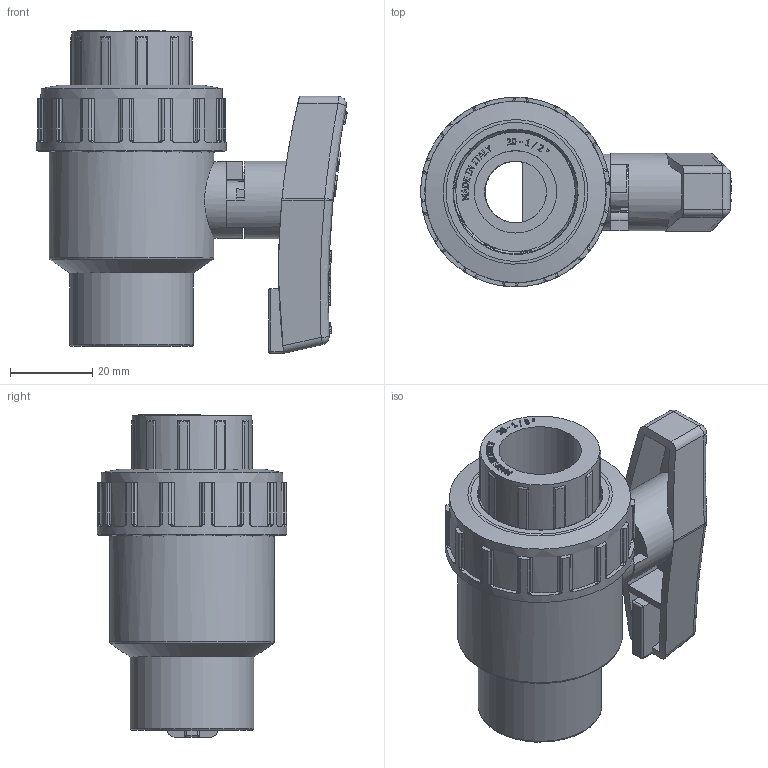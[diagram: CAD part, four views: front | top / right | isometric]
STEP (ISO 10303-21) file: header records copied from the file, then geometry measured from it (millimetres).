
FILE_DESCRIPTION(/* description */ (''),/* implementation_level */ '2;1');
FILE_NAME(/* name */ 'C:\ex desktop\VALVOLE SFERA\BV ACQUA\VALVOLE BVS MM\BVS40\BVS40020\BVS40020_new_handle.stp',/* time_stamp */ '2019-04-17T09:43:31+02:00',/* author */ ('e.sacchi'),/* organization */ (''),/* preprocessor_version */ 'ST-DEVELOPER v16.13',/* originating_system */ 'Autodesk Inventor 2018',/* authorisation */ '');
FILE_SCHEMA (('AUTOMOTIVE_DESIGN { 1 0 10303 214 3 1 1 }'));
Length unit declared in the file: millimetre
Products named in the file (13): BVS10020; CORPO_BVS_10_d_20; ASTA_BVD_40_d_20; LAV2031E; SFERA_BVI_10_d_20; supporto_BVD_40_d_20; LAV2075E; PTFE_BVI_10_d_20; LAV0132E; LAV3075E; COLLARE_BVI_10_D20; GHIERA_BVD_40_d_20; maniglia_BVI_10_d_20
Assembly tree (15 placements, depth 2):
  BVS10020
    CORPO_BVS_10_d_20
    LAV2075E  x2
    PTFE_BVI_10_d_20  x2
    ASTA_BVD_40_d_20
    LAV2031E  x2
    SFERA_BVI_10_d_20
    supporto_BVD_40_d_20
    LAV0132E
    LAV3075E
    COLLARE_BVI_10_D20
    GHIERA_BVD_40_d_20
    maniglia_BVI_10_d_20
Bounding box: 75.35 x 46 x 78.32 mm (x, y, z)
Volume: 72936.8 mm3; surface area: 46608.3 mm2
Topology: 17 solids, 17 shells, 1075 faces, 2859 edges, 1872 vertices
Faces by surface type: plane 528, bspline 245, cylinder 224, torus 56, cone 13, sphere 9
Full cylindrical faces by diameter (mm): 8 x2, 10 x1, 12 x1, 15 x4, 18.5 x4, 18.8 x1, 20 x2, 23 x4, 24 x1, 29 x1, 29.6 x1, 30 x1, 30.816 x2, 31 x1, 32 x2, 32.3 x2, 37 x3, 38 x3, 40 x3, 44 x1, 46 x1
Entity records: 46050 total; most frequent: CARTESIAN_POINT 20618, ORIENTED_EDGE 5506, DIRECTION 4658, EDGE_CURVE 2751, VERTEX_POINT 1831, AXIS2_PLACEMENT_3D 1609, LINE 1440, VECTOR 1440
